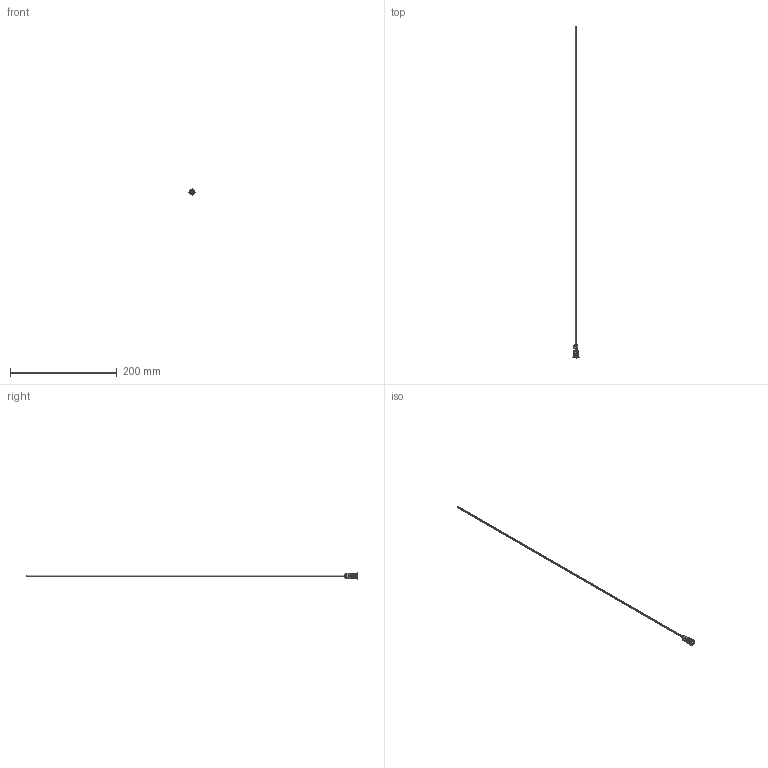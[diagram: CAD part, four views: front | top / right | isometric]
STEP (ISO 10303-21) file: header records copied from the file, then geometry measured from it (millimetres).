
FILE_DESCRIPTION (( 'STEP AP203' ), '1' );
FILE_NAME ('RF-10Fx600-2,5.STEP', '2015-11-19T16:04:54', ( 'Balzi' ), ( '' ), 'SwSTEP 2.0', 'SolidWorks 2015', '' );
FILE_SCHEMA (( 'CONFIG_CONTROL_DESIGN' ));
Length unit declared in the file: millimetre
Products named in the file (1): RF-10Fx600-2,5
Bounding box: 11.3 x 622.5 x 11.3 mm (x, y, z)
Volume: 2328.8 mm3; surface area: 9763.9 mm2
Topology: 1 solids, 1 shells, 71 faces, 164 edges, 102 vertices
Faces by surface type: plane 26, cylinder 25, cone 12, torus 8
Entity records: 2114 total; most frequent: DIRECTION 385, CARTESIAN_POINT 357, ORIENTED_EDGE 328, EDGE_CURVE 164, AXIS2_PLACEMENT_3D 154, VERTEX_POINT 102, CIRCLE 82, EDGE_LOOP 80
